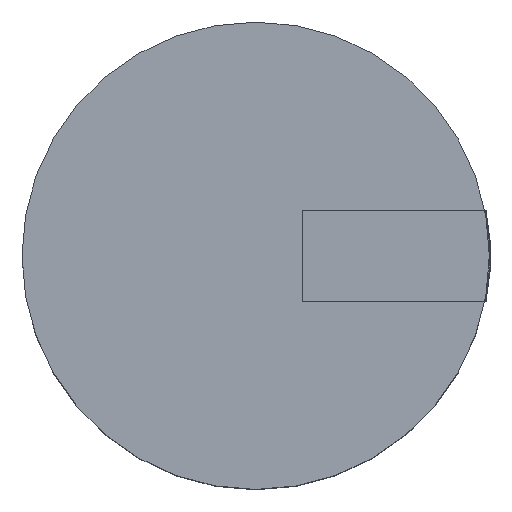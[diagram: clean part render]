
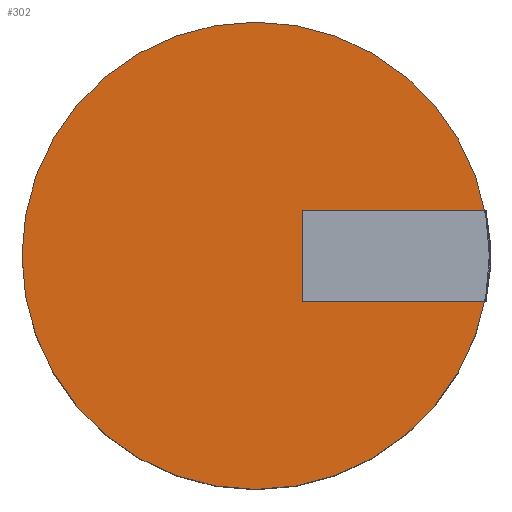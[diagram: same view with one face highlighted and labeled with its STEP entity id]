
A CAD part, top view. The second image highlights one B-rep face of the part: STEP entity #302.
In plain terms, the highlighted planar face has unit normal (0, 0, 1).
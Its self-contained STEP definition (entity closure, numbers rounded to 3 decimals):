
#302=ADVANCED_FACE($,(#308),#304,.T.);
#304=PLANE($,#329);
#308=FACE_OUTER_BOUND($,#312,.T.);
#312=EDGE_LOOP($,(#322));
#313=CIRCLE($,#326,7.176);
#315=VERTEX_POINT('',#344);
#317=EDGE_CURVE($,#315,#315,#313,.T.);
#322=ORIENTED_EDGE($,*,*,#317,.T.);
#326=AXIS2_PLACEMENT_3D($,#345,#334,#335);
#329=AXIS2_PLACEMENT_3D($,#349,#340,#341);
#334=DIRECTION('',(0.,0.,1.));
#335=DIRECTION('',(1.,0.,0.));
#340=DIRECTION('',(0.,0.,1.));
#341=DIRECTION('',(0.,1.,0.));
#344=CARTESIAN_POINT('',(-3.405,0.0,7.01));
#345=CARTESIAN_POINT('',(3.77,0.0,7.01));
#349=CARTESIAN_POINT('',(3.77,0.0,7.01));
